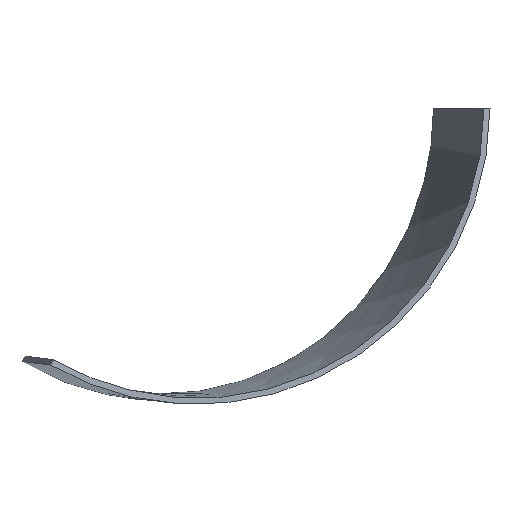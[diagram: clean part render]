
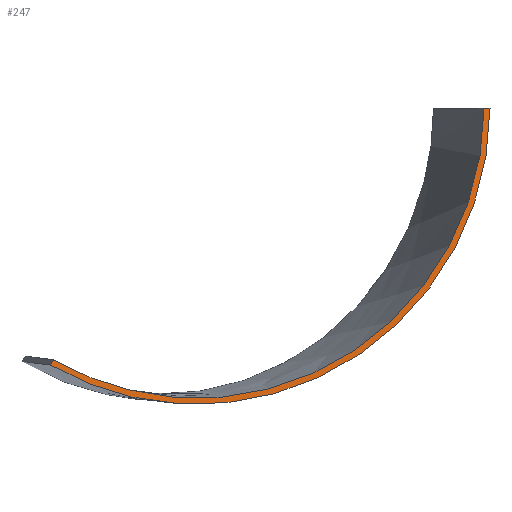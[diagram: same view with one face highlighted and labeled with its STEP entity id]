
A CAD part, left-side view. The second image highlights one B-rep face of the part: STEP entity #247.
In plain terms, the highlighted free-form (B-spline) face has degree [1, 3] with [2, 10] control points.
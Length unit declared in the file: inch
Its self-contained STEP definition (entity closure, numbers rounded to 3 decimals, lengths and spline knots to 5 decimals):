
#17 = EDGE_LOOP ( 'NONE', ( #69, #267, #301, #463 ) ) ;
#21 = CARTESIAN_POINT ( 'NONE',  ( 24.07319, -151.99217, -12.45315 ) ) ;
#28 = CARTESIAN_POINT ( 'NONE',  ( 23.24913, -146.3932, -23.70545 ) ) ;
#39 = EDGE_CURVE ( 'NONE', #400, #361, #494, .T. ) ;
#42 = B_SPLINE_CURVE_WITH_KNOTS ( 'NONE', 1,
 ( #508, #398 ),
 .UNSPECIFIED., .F., .F.,
 ( 2, 2 ),
 ( 0., 1. ),
 .UNSPECIFIED. ) ;
#52 = CARTESIAN_POINT ( 'NONE',  ( 15.94329, -100.70011, -31.51115 ) ) ;
#54 = CARTESIAN_POINT ( 'NONE',  ( 23.09703, -145.82892, -23.21754 ) ) ;
#61 = CARTESIAN_POINT ( 'NONE',  ( 16.81327, -106.14341, -34.66801 ) ) ;
#62 = B_SPLINE_SURFACE_WITH_KNOTS ( 'NONE', 1, 3, ( 
 ( #147, #318, #469, #28, #184, #229, #107, #196, #391, #199 ),
 ( #358, #145, #21, #70, #355, #233, #157, #517, #442, #520 ) ),
 .UNSPECIFIED., .F., .F., .F.,
 ( 2, 2 ),
 ( 4, 2, 2, 2, 4 ),
 ( 0., 1. ),
 ( 0., 0.25, 0.5, 0.75, 1. ),
 .UNSPECIFIED. ) ;
#67 = FACE_OUTER_BOUND ( 'NONE', #17, .T. ) ;
#69 = ORIENTED_EDGE ( 'NONE', *, *, #39, .F. ) ;
#70 = CARTESIAN_POINT ( 'NONE',  ( 23.09703, -145.82892, -23.21754 ) ) ;
#93 = CARTESIAN_POINT ( 'NONE',  ( 20.78993, -131.01548, -34.62276 ) ) ;
#100 = CARTESIAN_POINT ( 'NONE',  ( 24.25515, -152.68366, -12.71455 ) ) ;
#107 = CARTESIAN_POINT ( 'NONE',  ( 19.80483, -124.8551, -36.30076 ) ) ;
#109 = CARTESIAN_POINT ( 'NONE',  ( 24.3353, -153.64705, -0.125 ) ) ;
#135 = VERTEX_POINT ( 'NONE', #422 ) ;
#138 = EDGE_CURVE ( 'NONE', #400, #135, #375, .T. ) ;
#140 = CARTESIAN_POINT ( 'NONE',  ( 19.80483, -124.8551, -36.30076 ) ) ;
#141 = CARTESIAN_POINT ( 'NONE',  ( 16.00749, -101.0673, -30.86034 ) ) ;
#145 = CARTESIAN_POINT ( 'NONE',  ( 24.33188, -153.62545, -6.34611 ) ) ;
#147 = CARTESIAN_POINT ( 'NONE',  ( 24.52526, -154.37259, -0.12762 ) ) ;
#157 = CARTESIAN_POINT ( 'NONE',  ( 19.75511, -124.72887, -35.55151 ) ) ;
#162 = B_SPLINE_CURVE_WITH_KNOTS ( 'NONE', 3,
 ( #385, #504, #100, #296, #217, #93, #140, #183, #61, #52 ),
 .UNSPECIFIED., .F., .F.,
 ( 4, 2, 2, 2, 4 ),
 ( 0., 0.25, 0.5, 0.75, 1. ),
 .UNSPECIFIED. ) ;
#178 = CARTESIAN_POINT ( 'NONE',  ( 24.33188, -153.62545, -6.34611 ) ) ;
#183 = CARTESIAN_POINT ( 'NONE',  ( 17.79904, -112.30989, -36.32359 ) ) ;
#184 = CARTESIAN_POINT ( 'NONE',  ( 22.52719, -141.87905, -28.2698 ) ) ;
#196 = CARTESIAN_POINT ( 'NONE',  ( 17.79904, -112.30989, -36.32359 ) ) ;
#199 = CARTESIAN_POINT ( 'NONE',  ( 15.94329, -100.70011, -31.51115 ) ) ;
#216 = CARTESIAN_POINT ( 'NONE',  ( 20.71092, -130.7636, -33.9086 ) ) ;
#217 = CARTESIAN_POINT ( 'NONE',  ( 22.52719, -141.87905, -28.2698 ) ) ;
#220 = CARTESIAN_POINT ( 'NONE',  ( 24.3353, -153.64705, -0.125 ) ) ;
#229 = CARTESIAN_POINT ( 'NONE',  ( 20.78993, -131.01548, -34.62276 ) ) ;
#232 = EDGE_CURVE ( 'NONE', #135, #363, #42, .T. ) ;
#233 = CARTESIAN_POINT ( 'NONE',  ( 20.71092, -130.7636, -33.9086 ) ) ;
#238 = CARTESIAN_POINT ( 'NONE',  ( 24.52526, -154.37259, -0.12762 ) ) ;
#247 = ADVANCED_FACE ( 'NONE', ( #67 ), #62, .T. ) ;
#258 = CARTESIAN_POINT ( 'NONE',  ( 24.07319, -151.99217, -12.45315 ) ) ;
#267 = ORIENTED_EDGE ( 'NONE', *, *, #138, .T. ) ;
#296 = CARTESIAN_POINT ( 'NONE',  ( 23.24913, -146.3932, -23.70545 ) ) ;
#301 = ORIENTED_EDGE ( 'NONE', *, *, #232, .T. ) ;
#318 = CARTESIAN_POINT ( 'NONE',  ( 24.52174, -154.35055, -6.47927 ) ) ;
#343 = CARTESIAN_POINT ( 'NONE',  ( 22.39655, -141.40627, -27.68746 ) ) ;
#355 = CARTESIAN_POINT ( 'NONE',  ( 22.39655, -141.40627, -27.68746 ) ) ;
#358 = CARTESIAN_POINT ( 'NONE',  ( 24.3353, -153.64705, -0.125 ) ) ;
#361 = VERTEX_POINT ( 'NONE', #456 ) ;
#363 = VERTEX_POINT ( 'NONE', #426 ) ;
#375 = B_SPLINE_CURVE_WITH_KNOTS ( 'NONE', 3,
 ( #220, #178, #258, #54, #343, #216, #384, #413, #381, #141 ),
 .UNSPECIFIED., .F., .F.,
 ( 4, 2, 2, 2, 4 ),
 ( 0., 0.25, 0.5, 0.75, 1. ),
 .UNSPECIFIED. ) ;
#380 = EDGE_CURVE ( 'NONE', #361, #363, #162, .T. ) ;
#381 = CARTESIAN_POINT ( 'NONE',  ( 16.85201, -106.3994, -33.95195 ) ) ;
#384 = CARTESIAN_POINT ( 'NONE',  ( 19.75511, -124.72887, -35.55151 ) ) ;
#385 = CARTESIAN_POINT ( 'NONE',  ( 24.52526, -154.37259, -0.12762 ) ) ;
#391 = CARTESIAN_POINT ( 'NONE',  ( 16.81327, -106.14342, -34.66801 ) ) ;
#398 = CARTESIAN_POINT ( 'NONE',  ( 15.94329, -100.70011, -31.51115 ) ) ;
#400 = VERTEX_POINT ( 'NONE', #458 ) ;
#413 = CARTESIAN_POINT ( 'NONE',  ( 17.80871, -112.43979, -35.57338 ) ) ;
#422 = CARTESIAN_POINT ( 'NONE',  ( 16.00749, -101.0673, -30.86034 ) ) ;
#426 = CARTESIAN_POINT ( 'NONE',  ( 15.94329, -100.70011, -31.51115 ) ) ;
#442 = CARTESIAN_POINT ( 'NONE',  ( 16.85201, -106.3994, -33.95195 ) ) ;
#456 = CARTESIAN_POINT ( 'NONE',  ( 24.52526, -154.37259, -0.12762 ) ) ;
#458 = CARTESIAN_POINT ( 'NONE',  ( 24.3353, -153.64705, -0.125 ) ) ;
#463 = ORIENTED_EDGE ( 'NONE', *, *, #380, .F. ) ;
#469 = CARTESIAN_POINT ( 'NONE',  ( 24.25515, -152.68366, -12.71455 ) ) ;
#494 = B_SPLINE_CURVE_WITH_KNOTS ( 'NONE', 1,
 ( #109, #238 ),
 .UNSPECIFIED., .F., .F.,
 ( 2, 2 ),
 ( 0., 1. ),
 .UNSPECIFIED. ) ;
#504 = CARTESIAN_POINT ( 'NONE',  ( 24.52174, -154.35055, -6.47927 ) ) ;
#508 = CARTESIAN_POINT ( 'NONE',  ( 16.00749, -101.0673, -30.86034 ) ) ;
#517 = CARTESIAN_POINT ( 'NONE',  ( 17.80871, -112.43979, -35.57338 ) ) ;
#520 = CARTESIAN_POINT ( 'NONE',  ( 16.00749, -101.0673, -30.86034 ) ) ;
